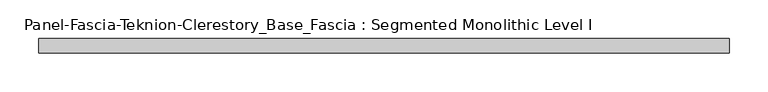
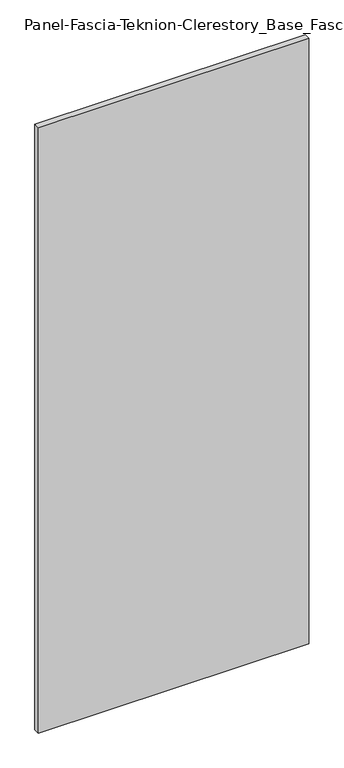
"""IFC4 building model written with IfcOpenShell, lengths in millimetres: proxy geometry, Panel-Fascia-Teknion-Clerestory_Base_Fascia : Segmented Monolithic Level I."""

from ifc_helpers import new_model, si_unit, frame, origin, place, context, project, spatial, polyline, outline, extrude, source, transform, mapped, element, save


def panel_fascia_teknion_clerestory_base_fascia_segmented_5bbcc382(model_context):
    return source(origin(), model_context, "Body", "SweptSolid", [
        extrude(outline(polyline([(447.6198344, -9.525), (-447.6198344, -9.525), (-447.6198344, 9.525), (447.6198344, 9.525), (447.6198344, -9.525)])), frame((0.0, 0.0, 3.175), z_axis=(0.0, 0.0, 1.0), x_axis=(1.0, 0.0, 0.0)), (0.0, 0.0, 1.0), 2117.725),
    ])


if __name__ == "__main__":
    model = new_model("IFC4")
    model_context = context("Model", 3, world=origin())
    ifc_project = project(units=[si_unit("LENGTHUNIT", "METRE", prefix="MILLI")], contexts=[model_context])
    site = spatial("IfcSite", under=ifc_project)
    building = spatial("IfcBuilding", under=site)
    placement = place(None, origin())
    panel_fascia_teknion_clerestory_base_fascia_segmented_shape = panel_fascia_teknion_clerestory_base_fascia_segmented_5bbcc382(model_context)
    element("IfcBuildingElementProxy", 1, Name="Panel-Fascia-Teknion-Clerestory_Base_Fascia : Segmented Monolithic Level I", ObjectType="Panel-Fascia-Teknion-Clerestory_Base_Fascia : Segmented Monolithic Level I", at=placement, inside=building, context=model_context, shape_type="MappedRepresentation", body=[
        mapped(panel_fascia_teknion_clerestory_base_fascia_segmented_shape, transform((0.0, 0.0, 0.0), x_axis=(1.0, 0.0, 0.0), y_axis=(0.0, 1.0, 0.0), z_axis=(0.0, 0.0, 1.0))),
    ])
    save(model, "model.ifc")
